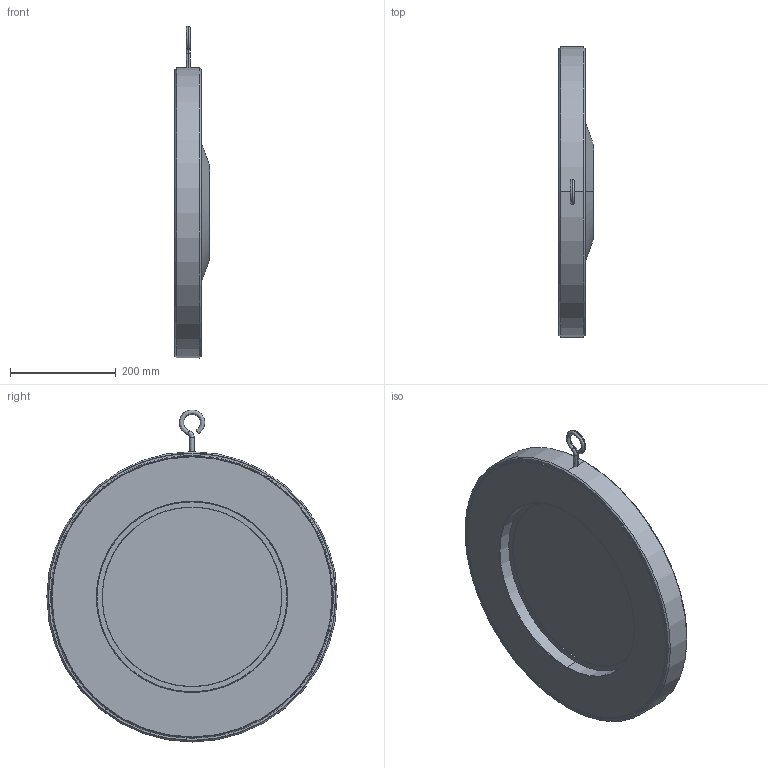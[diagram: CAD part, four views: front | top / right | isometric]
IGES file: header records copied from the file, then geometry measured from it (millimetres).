
Start section: SolidWorks IGES file using analytic representation for surfaces
Global section: file name: C:\Users\Administrator\Desktop\temp\0.IGS; native system: SolidWorks 2015; preprocessor: SolidWorks 2015; author: Administrator; date: 170404.092805; units: millimetre
Bounding box: 66.5 x 550 x 629 mm (x, y, z)
Surface area: 734526 mm2 (no closed solid volume)
Topology: 0 solids, 0 shells, 182 faces, 2844 edges, 2838 vertices
Faces by surface type: bspline 112, revolution 70
